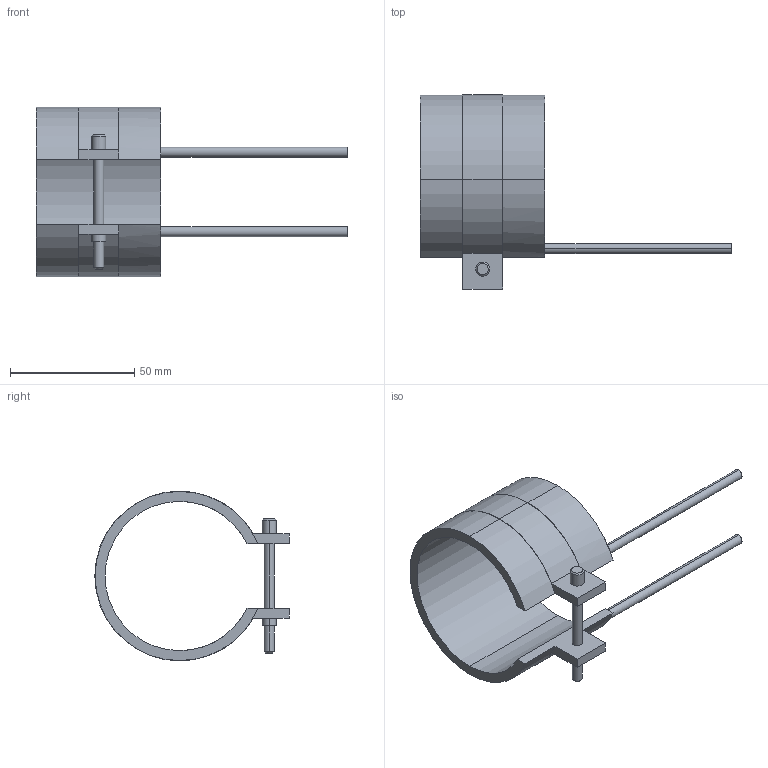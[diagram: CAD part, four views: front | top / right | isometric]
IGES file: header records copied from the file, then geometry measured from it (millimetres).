
Start section: START RECORD GO HERE.
Global section: file name: 14060050.igs; native system: DASSAULT SYSTEMES CATIA V5 R20 - www.3ds.com; preprocessor: CATIA Version 5 Release 20 ; author: Utente; organization: NB04-ASUS; date: 20210331.144835; units: millimetre
Bounding box: 125 x 78.1 x 68.2 mm (x, y, z)
Surface area: 22846.6 mm2 (no closed solid volume)
Topology: 0 solids, 0 shells, 45 faces, 232 edges, 232 vertices
Faces by surface type: revolution 28, plane 17
